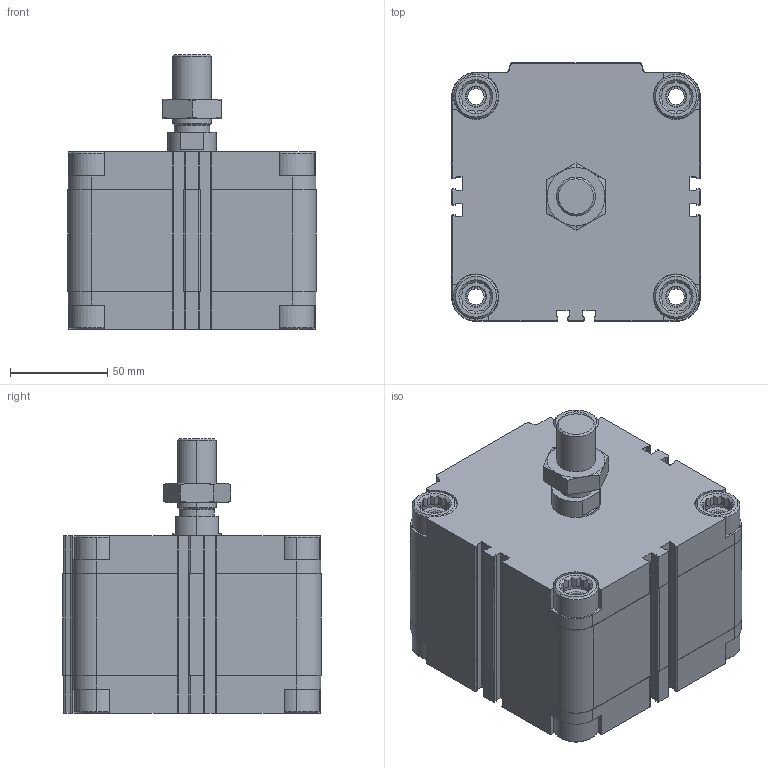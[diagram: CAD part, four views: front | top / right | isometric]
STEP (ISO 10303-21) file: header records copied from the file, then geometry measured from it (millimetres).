
FILE_DESCRIPTION (( 'STEP AP203' ), '1' );
FILE_NAME ('CDVU100-25.STEP', '2020-03-19T11:41:15', ( '' ), ( '' ), 'SwSTEP 2.0', 'SolidWorks 2019', '' );
FILE_SCHEMA (( 'CONFIG_CONTROL_DESIGN' ));
Length unit declared in the file: millimetre
Products named in the file (1): CDVU100-25
Bounding box: 128 x 133 x 141.5 mm (x, y, z)
Volume: 1279319.1 mm3; surface area: 165704.5 mm2
Topology: 3 solids, 3 shells, 675 faces, 1816 edges, 1190 vertices
Faces by surface type: plane 397, cylinder 208, cone 70
Entity records: 21767 total; most frequent: CARTESIAN_POINT 4686, ORIENTED_EDGE 3624, DIRECTION 3460, EDGE_CURVE 1812, VERTEX_POINT 1190, AXIS2_PLACEMENT_3D 1176, VECTOR 1108, LINE 1108
